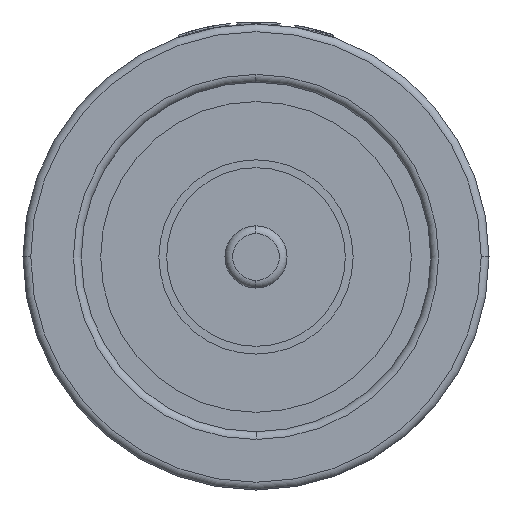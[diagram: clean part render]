
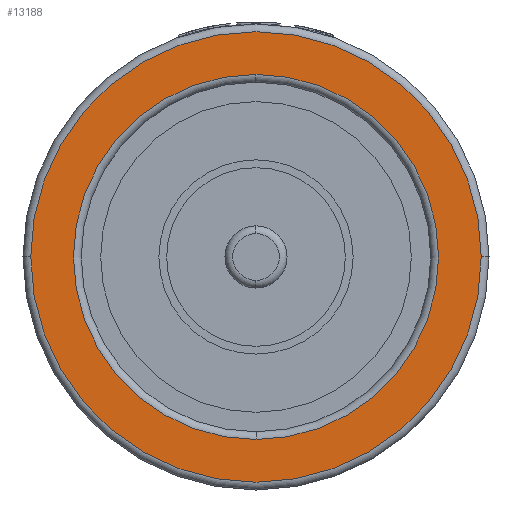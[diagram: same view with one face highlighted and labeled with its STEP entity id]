
A CAD part, left-side view. The second image highlights one B-rep face of the part: STEP entity #13188.
In plain terms, the highlighted planar face has unit normal (-1, 0, 0).
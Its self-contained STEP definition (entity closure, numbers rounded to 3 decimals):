
#1=CARTESIAN_POINT('',(0.,0.,0.));
#2=DIRECTION('',(-1.,0.,0.));
#3=DIRECTION('',(0.,1.,0.));
#4=AXIS2_PLACEMENT_3D('',#1,#2,#3);
#6=CARTESIAN_POINT('',(0.,0.,0.));
#7=DIRECTION('',(-1.,0.,0.));
#8=DIRECTION('',(0.,-1.,0.));
#9=AXIS2_PLACEMENT_3D('',#6,#7,#8);
#11=CARTESIAN_POINT('',(0.,0.,0.));
#12=DIRECTION('',(1.,0.,0.));
#13=DIRECTION('',(0.,0.,1.));
#14=AXIS2_PLACEMENT_3D('',#11,#12,#13);
#16=CARTESIAN_POINT('',(0.,0.,0.));
#17=DIRECTION('',(1.,0.,0.));
#18=DIRECTION('',(0.,0.,-1.));
#19=AXIS2_PLACEMENT_3D('',#16,#17,#18);
#11091=CARTESIAN_POINT('',(0.,2.9,0.));
#11092=CARTESIAN_POINT('',(0.,-2.9,0.));
#11093=VERTEX_POINT('',#11091);
#11094=VERTEX_POINT('',#11092);
#11147=CARTESIAN_POINT('',(0.,0.,2.35));
#11148=CARTESIAN_POINT('',(0.,0.,-2.35));
#11149=VERTEX_POINT('',#11147);
#11150=VERTEX_POINT('',#11148);
#13171=CARTESIAN_POINT('',(0.,0.,0.));
#13172=DIRECTION('',(1.,0.,0.));
#13173=DIRECTION('',(0.,-1.,0.));
#13174=AXIS2_PLACEMENT_3D('',#13171,#13172,#13173);
#13175=PLANE('',#13174);
#13177=ORIENTED_EDGE('',*,*,#13176,.F.);
#13179=ORIENTED_EDGE('',*,*,#13178,.F.);
#13180=EDGE_LOOP('',(#13177,#13179));
#13181=FACE_OUTER_BOUND('',#13180,.F.);
#13183=ORIENTED_EDGE('',*,*,#13182,.F.);
#13185=ORIENTED_EDGE('',*,*,#13184,.F.);
#13186=EDGE_LOOP('',(#13183,#13185));
#13187=FACE_BOUND('',#13186,.F.);
#13188=ADVANCED_FACE('',(#13181,#13187),#13175,.F.);
#5=CIRCLE('',#4,2.9);
#10=CIRCLE('',#9,2.9);
#15=CIRCLE('',#14,2.35);
#20=CIRCLE('',#19,2.35);
#13176=EDGE_CURVE('',#11093,#11094,#5,.T.);
#13178=EDGE_CURVE('',#11094,#11093,#10,.T.);
#13182=EDGE_CURVE('',#11149,#11150,#15,.T.);
#13184=EDGE_CURVE('',#11150,#11149,#20,.T.);
